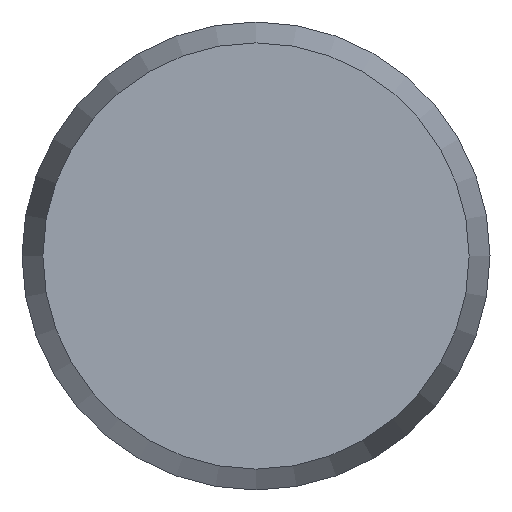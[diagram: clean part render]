
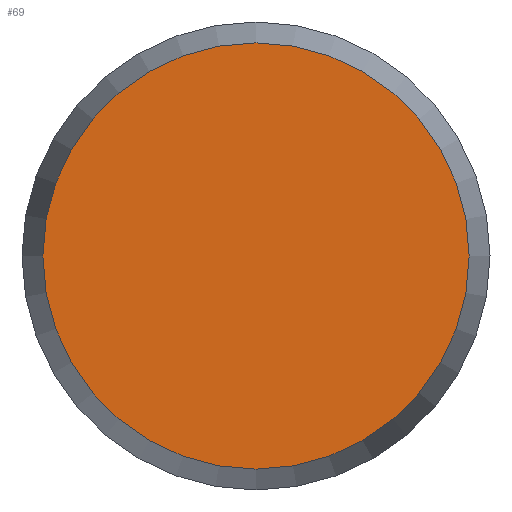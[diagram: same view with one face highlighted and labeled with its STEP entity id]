
A CAD part, left-side view. The second image highlights one B-rep face of the part: STEP entity #69.
In plain terms, the highlighted planar face has unit normal (-1, 0, 0).
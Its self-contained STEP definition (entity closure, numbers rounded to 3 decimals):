
#16=PLANE('',#101);
#22=FACE_OUTER_BOUND('',#27,.T.);
#27=EDGE_LOOP('',(#62));
#37=CIRCLE('',#100,1.366);
#41=VERTEX_POINT('',#138);
#47=EDGE_CURVE('',#41,#41,#37,.T.);
#62=ORIENTED_EDGE('',*,*,#47,.F.);
#69=ADVANCED_FACE('',(#22),#16,.T.);
#100=AXIS2_PLACEMENT_3D('',#139,#120,#121);
#101=AXIS2_PLACEMENT_3D('',#141,#123,#124);
#120=DIRECTION('center_axis',(1.,0.,0.));
#121=DIRECTION('ref_axis',(0.,-1.,0.));
#123=DIRECTION('center_axis',(-1.,0.,0.));
#124=DIRECTION('ref_axis',(0.,0.,1.));
#138=CARTESIAN_POINT('',(0.,1.366,0.));
#139=CARTESIAN_POINT('Origin',(0.,0.,0.));
#141=CARTESIAN_POINT('Origin',(0.,0.,0.));
